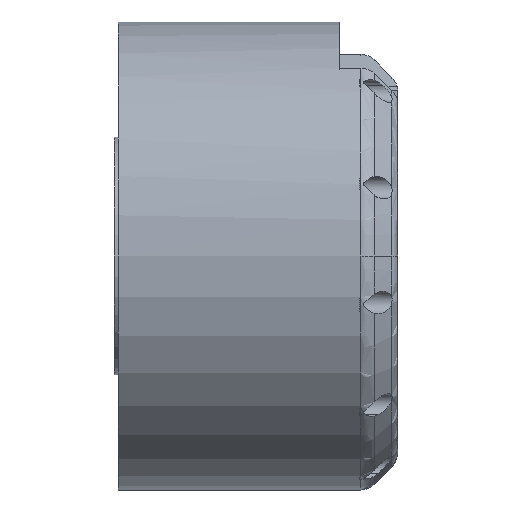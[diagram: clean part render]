
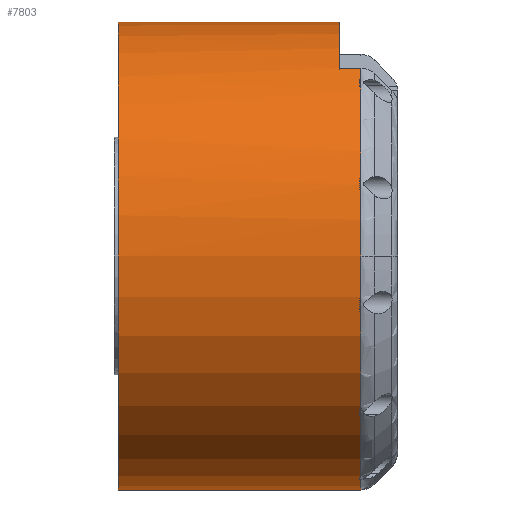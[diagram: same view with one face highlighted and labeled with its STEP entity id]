
A CAD part, left-side view. The second image highlights one B-rep face of the part: STEP entity #7803.
In plain terms, the highlighted cylindrical face has radius 62 mm (diameter 124 mm), a partial arc.
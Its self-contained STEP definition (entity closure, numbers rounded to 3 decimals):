
#278 = AXIS2_PLACEMENT_3D ( 'NONE', #1241, #5965, #5083 ) ;
#338 = VERTEX_POINT ( 'NONE', #3239 ) ;
#519 = VERTEX_POINT ( 'NONE', #2950 ) ;
#567 = VERTEX_POINT ( 'NONE', #10061 ) ;
#696 = DIRECTION ( 'NONE',  ( 0., -1., 0. ) ) ;
#746 = VECTOR ( 'NONE', #3739, 1000. ) ;
#1087 = ORIENTED_EDGE ( 'NONE', *, *, #3240, .F. ) ;
#1144 = LINE ( 'NONE', #3785, #746 ) ;
#1241 = CARTESIAN_POINT ( 'NONE',  ( 0., -5.795, 0. ) ) ;
#1336 = CARTESIAN_POINT ( 'NONE',  ( 0., -5.795, -62. ) ) ;
#1530 = EDGE_CURVE ( 'NONE', #519, #338, #2239, .T. ) ;
#1814 = CIRCLE ( 'NONE', #278, 62. ) ;
#1884 = DIRECTION ( 'NONE',  ( 0., 0., -1. ) ) ;
#2210 = EDGE_CURVE ( 'NONE', #9227, #10269, #1144, .T. ) ;
#2239 = LINE ( 'NONE', #7822, #4560 ) ;
#2573 = CARTESIAN_POINT ( 'NONE',  ( 0., 58.5, -62. ) ) ;
#2581 = CARTESIAN_POINT ( 'NONE',  ( 0., 0., 62. ) ) ;
#2886 = EDGE_CURVE ( 'NONE', #10152, #8786, #3085, .T. ) ;
#2950 = CARTESIAN_POINT ( 'NONE',  ( -37.019, 0., 49.736 ) ) ;
#3085 = LINE ( 'NONE', #10367, #9071 ) ;
#3107 = AXIS2_PLACEMENT_3D ( 'NONE', #7001, #7695, #5459 ) ;
#3239 = CARTESIAN_POINT ( 'NONE',  ( -37.019, -5.795, 49.736 ) ) ;
#3240 = EDGE_CURVE ( 'NONE', #9227, #10152, #5171, .T. ) ;
#3568 = FACE_OUTER_BOUND ( 'NONE', #10246, .T. ) ;
#3614 = CYLINDRICAL_SURFACE ( 'NONE', #4680, 62. ) ;
#3719 = DIRECTION ( 'NONE',  ( 1., 0., 0. ) ) ;
#3739 = DIRECTION ( 'NONE',  ( 0., -1., 0. ) ) ;
#3785 = CARTESIAN_POINT ( 'NONE',  ( 0., 58.5, -62. ) ) ;
#3829 = DIRECTION ( 'NONE',  ( 0., -1., 0. ) ) ;
#3970 = ORIENTED_EDGE ( 'NONE', *, *, #5633, .F. ) ;
#4080 = ORIENTED_EDGE ( 'NONE', *, *, #2886, .F. ) ;
#4528 = CIRCLE ( 'NONE', #8765, 62. ) ;
#4560 = VECTOR ( 'NONE', #3829, 1000. ) ;
#4680 = AXIS2_PLACEMENT_3D ( 'NONE', #9156, #7618, #1884 ) ;
#4876 = CARTESIAN_POINT ( 'NONE',  ( 0., 58.5, 62. ) ) ;
#5083 = DIRECTION ( 'NONE',  ( -1., 0., 0. ) ) ;
#5161 = AXIS2_PLACEMENT_3D ( 'NONE', #8391, #7607, #5575 ) ;
#5171 = CIRCLE ( 'NONE', #5161, 62. ) ;
#5223 = EDGE_CURVE ( 'NONE', #10269, #567, #1814, .T. ) ;
#5459 = DIRECTION ( 'NONE',  ( -1., 0., 0. ) ) ;
#5575 = DIRECTION ( 'NONE',  ( 0., 0., 1. ) ) ;
#5633 = EDGE_CURVE ( 'NONE', #8786, #519, #4528, .T. ) ;
#5965 = DIRECTION ( 'NONE',  ( 0., 1., 0. ) ) ;
#6623 = ORIENTED_EDGE ( 'NONE', *, *, #2210, .T. ) ;
#6702 = EDGE_CURVE ( 'NONE', #567, #338, #9552, .T. ) ;
#6907 = DIRECTION ( 'NONE',  ( 0., -1., 0. ) ) ;
#7001 = CARTESIAN_POINT ( 'NONE',  ( 0., -5.795, 0. ) ) ;
#7392 = ORIENTED_EDGE ( 'NONE', *, *, #1530, .F. ) ;
#7607 = DIRECTION ( 'NONE',  ( 0., 1., 0. ) ) ;
#7618 = DIRECTION ( 'NONE',  ( 0., -1., 0. ) ) ;
#7695 = DIRECTION ( 'NONE',  ( 0., 1., 0. ) ) ;
#7803 = ADVANCED_FACE ( 'NONE', ( #3568 ), #3614, .T. ) ;
#7822 = CARTESIAN_POINT ( 'NONE',  ( -37.019, 0., 49.736 ) ) ;
#8391 = CARTESIAN_POINT ( 'NONE',  ( 0., 58.5, 0. ) ) ;
#8765 = AXIS2_PLACEMENT_3D ( 'NONE', #10199, #6907, #3719 ) ;
#8786 = VERTEX_POINT ( 'NONE', #2581 ) ;
#9071 = VECTOR ( 'NONE', #696, 1000. ) ;
#9156 = CARTESIAN_POINT ( 'NONE',  ( 0., 58.5, 0. ) ) ;
#9227 = VERTEX_POINT ( 'NONE', #2573 ) ;
#9552 = CIRCLE ( 'NONE', #3107, 62. ) ;
#10061 = CARTESIAN_POINT ( 'NONE',  ( -62., -5.795, 0. ) ) ;
#10152 = VERTEX_POINT ( 'NONE', #4876 ) ;
#10169 = ORIENTED_EDGE ( 'NONE', *, *, #6702, .T. ) ;
#10199 = CARTESIAN_POINT ( 'NONE',  ( 0., 0., 0. ) ) ;
#10246 = EDGE_LOOP ( 'NONE', ( #4080, #1087, #6623, #10421, #10169, #7392, #3970 ) ) ;
#10269 = VERTEX_POINT ( 'NONE', #1336 ) ;
#10367 = CARTESIAN_POINT ( 'NONE',  ( 0., 58.5, 62. ) ) ;
#10421 = ORIENTED_EDGE ( 'NONE', *, *, #5223, .T. ) ;
